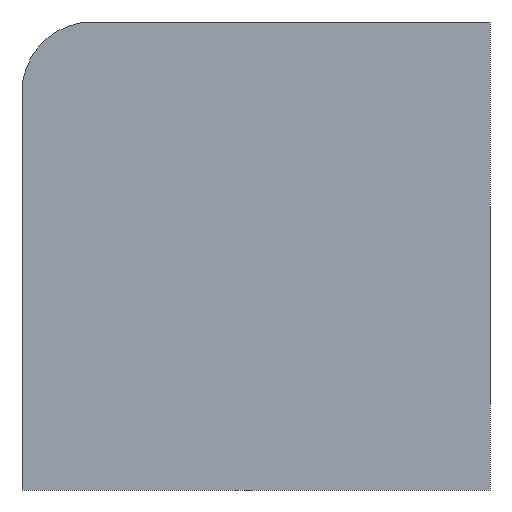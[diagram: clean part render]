
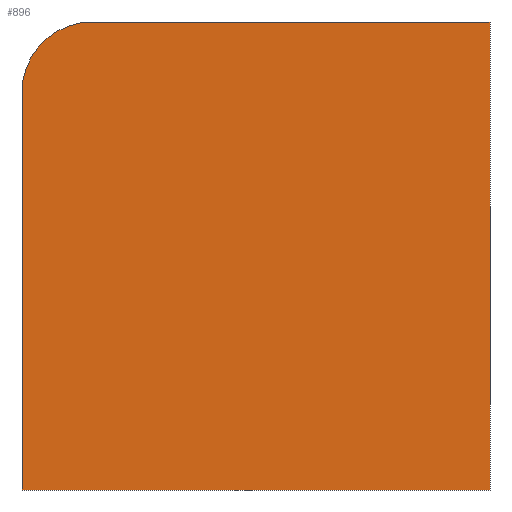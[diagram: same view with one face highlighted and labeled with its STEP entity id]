
A CAD part, front view. The second image highlights one B-rep face of the part: STEP entity #896.
In plain terms, the highlighted planar face has unit normal (0, -1, 0).
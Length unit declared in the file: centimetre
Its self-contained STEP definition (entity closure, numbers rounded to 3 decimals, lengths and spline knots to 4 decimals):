
#30 = VERTEX_POINT ( 'NONE', #580 ) ;
#38 = DIRECTION ( 'NONE',  ( 0., -1., 0. ) ) ;
#94 = ORIENTED_EDGE ( 'NONE', *, *, #623, .F. ) ;
#127 = DIRECTION ( 'NONE',  ( 1., 0., 0. ) ) ;
#147 = LINE ( 'NONE', #1096, #377 ) ;
#176 = DIRECTION ( 'NONE',  ( 0., 0., -1. ) ) ;
#184 = VECTOR ( 'NONE', #127, 100. ) ;
#192 = EDGE_CURVE ( 'NONE', #485, #30, #610, .T. ) ;
#193 = VERTEX_POINT ( 'NONE', #1020 ) ;
#204 = PLANE ( 'NONE',  #644 ) ;
#218 = CARTESIAN_POINT ( 'NONE',  ( 1000., 0., 0. ) ) ;
#233 = CARTESIAN_POINT ( 'NONE',  ( 1000., 0., 1000. ) ) ;
#262 = CARTESIAN_POINT ( 'NONE',  ( 1000., 0., 1000. ) ) ;
#271 = EDGE_LOOP ( 'NONE', ( #1089, #954, #577, #892, #94 ) ) ;
#325 = VERTEX_POINT ( 'NONE', #262 ) ;
#334 = CIRCLE ( 'NONE', #879, 149.4923 ) ;
#339 = EDGE_CURVE ( 'NONE', #193, #485, #334, .T. ) ;
#369 = DIRECTION ( 'NONE',  ( 0., 0., 1. ) ) ;
#377 = VECTOR ( 'NONE', #478, 100. ) ;
#381 = CARTESIAN_POINT ( 'NONE',  ( 0., 0., 0. ) ) ;
#456 = VERTEX_POINT ( 'NONE', #218 ) ;
#468 = VECTOR ( 'NONE', #628, 100. ) ;
#478 = DIRECTION ( 'NONE',  ( 1., 0., 0. ) ) ;
#485 = VERTEX_POINT ( 'NONE', #767 ) ;
#548 = DIRECTION ( 'NONE',  ( 0., 0., 1. ) ) ;
#556 = EDGE_CURVE ( 'NONE', #193, #325, #147, .T. ) ;
#577 = ORIENTED_EDGE ( 'NONE', *, *, #192, .T. ) ;
#580 = CARTESIAN_POINT ( 'NONE',  ( 0., 0., 0. ) ) ;
#610 = LINE ( 'NONE', #683, #1077 ) ;
#623 = EDGE_CURVE ( 'NONE', #325, #456, #752, .T. ) ;
#626 = EDGE_CURVE ( 'NONE', #30, #456, #721, .T. ) ;
#628 = DIRECTION ( 'NONE',  ( 0., 0., -1. ) ) ;
#644 = AXIS2_PLACEMENT_3D ( 'NONE', #973, #706, #548 ) ;
#683 = CARTESIAN_POINT ( 'NONE',  ( 0., 0., 1000. ) ) ;
#706 = DIRECTION ( 'NONE',  ( 0., 1., 0. ) ) ;
#721 = LINE ( 'NONE', #381, #184 ) ;
#752 = LINE ( 'NONE', #233, #468 ) ;
#767 = CARTESIAN_POINT ( 'NONE',  ( 0., 0., 850.5077 ) ) ;
#879 = AXIS2_PLACEMENT_3D ( 'NONE', #1069, #38, #369 ) ;
#890 = FACE_OUTER_BOUND ( 'NONE', #271, .T. ) ;
#892 = ORIENTED_EDGE ( 'NONE', *, *, #626, .T. ) ;
#896 = ADVANCED_FACE ( 'NONE', ( #890 ), #204, .F. ) ;
#954 = ORIENTED_EDGE ( 'NONE', *, *, #339, .T. ) ;
#973 = CARTESIAN_POINT ( 'NONE',  ( 0., 0., 1000. ) ) ;
#1020 = CARTESIAN_POINT ( 'NONE',  ( 149.4923, 0., 1000. ) ) ;
#1069 = CARTESIAN_POINT ( 'NONE',  ( 149.4923, 0., 850.5077 ) ) ;
#1077 = VECTOR ( 'NONE', #176, 100. ) ;
#1089 = ORIENTED_EDGE ( 'NONE', *, *, #556, .F. ) ;
#1096 = CARTESIAN_POINT ( 'NONE',  ( 0., 0., 1000. ) ) ;
